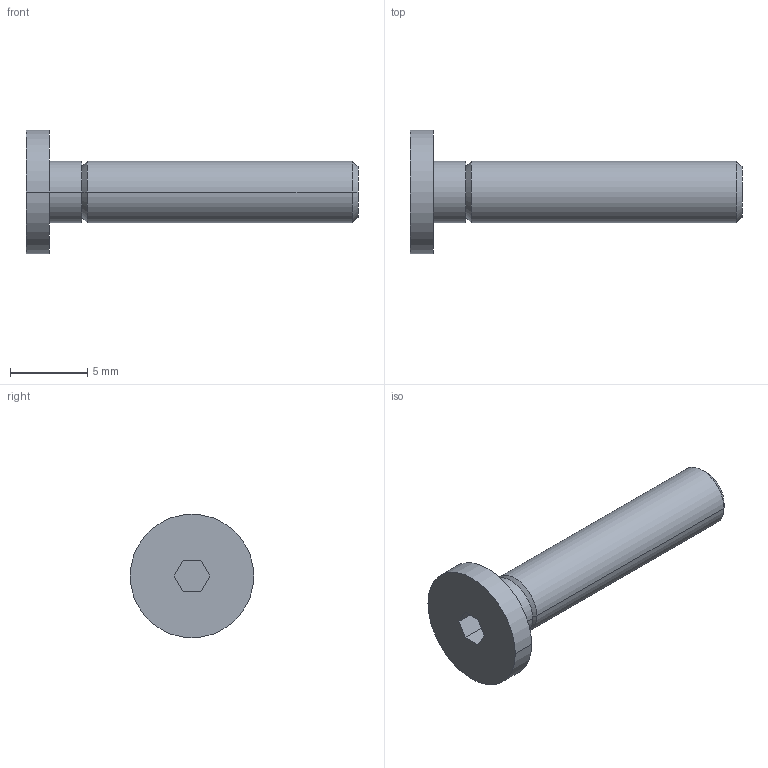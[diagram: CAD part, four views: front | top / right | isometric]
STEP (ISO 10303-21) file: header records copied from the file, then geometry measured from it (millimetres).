
FILE_DESCRIPTION(('STEP AP203'),'1');
FILE_NAME('m4-20-3646035.stp','2024-09-26T02:53:24',('TraceParts'),('TraceParts S.A.'),'Spatial InterOp 3D',' ',' ');
FILE_SCHEMA(('CONFIG_CONTROL_DESIGN'));
Length unit declared in the file: millimetre
Products named in the file (1): 1
Bounding box: 21.5 x 8 x 8 mm (x, y, z)
Volume: 316.4 mm3; surface area: 409.5 mm2
Topology: 1 solids, 1 shells, 21 faces, 44 edges, 28 vertices
Faces by surface type: plane 11, cylinder 6, cone 4
Entity records: 606 total; most frequent: DIRECTION 104, CARTESIAN_POINT 94, ORIENTED_EDGE 88, EDGE_CURVE 44, AXIS2_PLACEMENT_3D 38, VERTEX_POINT 28, LINE 28, VECTOR 28
